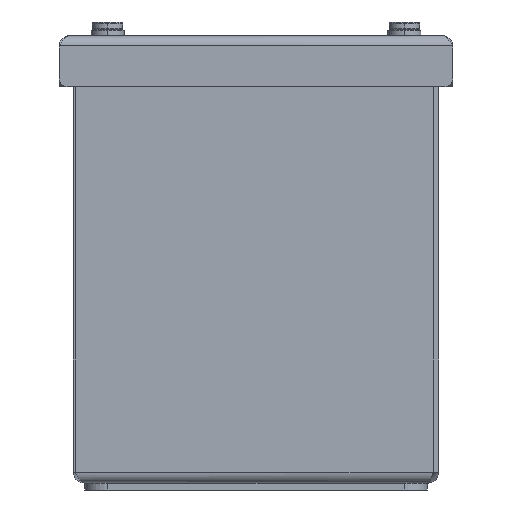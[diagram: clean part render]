
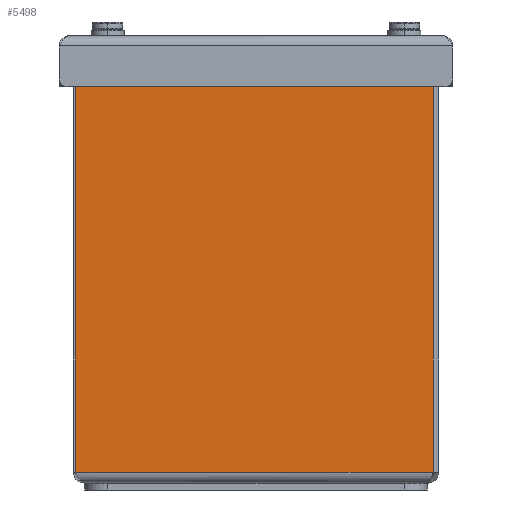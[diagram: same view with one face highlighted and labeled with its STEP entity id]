
A CAD part, left-side view. The second image highlights one B-rep face of the part: STEP entity #5498.
In plain terms, the highlighted planar face has unit normal (-1, 0, 0).
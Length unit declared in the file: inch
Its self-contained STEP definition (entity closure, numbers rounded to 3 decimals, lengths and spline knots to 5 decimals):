
#264=DIRECTION('',(0.,-1.,0.));
#265=VECTOR('',#264,3.918);
#266=CARTESIAN_POINT('',(0.,3.978,0.12));
#267=LINE('',#266,#265);
#1701=DIRECTION('',(0.,-1.,0.));
#1702=VECTOR('',#1701,3.22175);
#1703=CARTESIAN_POINT('',(0.,3.978,4.638));
#1704=LINE('',#1703,#1702);
#1791=DIRECTION('',(0.,0.,1.));
#1792=VECTOR('',#1791,0.052);
#1793=CARTESIAN_POINT('',(0.,0.75625,4.638));
#1794=LINE('',#1793,#1792);
#1798=DIRECTION('',(0.,1.,0.));
#1799=VECTOR('',#1798,0.64425);
#1800=CARTESIAN_POINT('',(0.,0.112,4.69));
#1801=LINE('',#1800,#1799);
#1805=CARTESIAN_POINT('',(0.,0.112,4.638));
#1806=DIRECTION('',(-1.,0.,0.));
#1807=DIRECTION('',(0.,-1.,0.));
#1808=AXIS2_PLACEMENT_3D('',#1805,#1806,#1807);
#1813=DIRECTION('',(0.,0.,1.));
#1814=VECTOR('',#1813,4.518);
#1815=CARTESIAN_POINT('',(0.,3.978,0.12));
#1816=LINE('',#1815,#1814);
#1862=DIRECTION('',(0.,0.,1.));
#1863=VECTOR('',#1862,4.518);
#1864=CARTESIAN_POINT('',(0.,0.06,0.12));
#1865=LINE('',#1864,#1863);
#3563=CARTESIAN_POINT('',(0.,0.75625,4.638));
#3564=CARTESIAN_POINT('',(0.,0.75625,4.69));
#3565=VERTEX_POINT('',#3563);
#3566=VERTEX_POINT('',#3564);
#3611=CARTESIAN_POINT('',(0.,0.06,4.638));
#3612=CARTESIAN_POINT('',(0.,0.112,4.69));
#3613=VERTEX_POINT('',#3611);
#3614=VERTEX_POINT('',#3612);
#3619=CARTESIAN_POINT('',(0.,0.06,0.12));
#3620=VERTEX_POINT('',#3619);
#3623=CARTESIAN_POINT('',(0.,3.978,0.12));
#3624=CARTESIAN_POINT('',(0.,3.978,4.638));
#3625=VERTEX_POINT('',#3623);
#3626=VERTEX_POINT('',#3624);
#5479=CARTESIAN_POINT('',(0.,4.,0.));
#5480=DIRECTION('',(-1.,0.,0.));
#5481=DIRECTION('',(0.,-1.,0.));
#5482=AXIS2_PLACEMENT_3D('',#5479,#5480,#5481);
#5483=PLANE('',#5482);
#5484=ORIENTED_EDGE('',*,*,#5468,.T.);
#5486=ORIENTED_EDGE('',*,*,#5485,.T.);
#5488=ORIENTED_EDGE('',*,*,#5487,.F.);
#5490=ORIENTED_EDGE('',*,*,#5489,.F.);
#5492=ORIENTED_EDGE('',*,*,#5491,.F.);
#5493=ORIENTED_EDGE('',*,*,#4168,.F.);
#5495=ORIENTED_EDGE('',*,*,#5494,.T.);
#5496=EDGE_LOOP('',(#5484,#5486,#5488,#5490,#5492,#5493,#5495));
#5497=FACE_OUTER_BOUND('',#5496,.F.);
#1809=CIRCLE('',#1808,0.052);
#4168=EDGE_CURVE('',#3625,#3620,#267,.T.);
#5468=EDGE_CURVE('',#3626,#3565,#1704,.T.);
#5485=EDGE_CURVE('',#3565,#3566,#1794,.T.);
#5487=EDGE_CURVE('',#3614,#3566,#1801,.T.);
#5489=EDGE_CURVE('',#3613,#3614,#1809,.T.);
#5491=EDGE_CURVE('',#3620,#3613,#1865,.T.);
#5494=EDGE_CURVE('',#3625,#3626,#1816,.T.);
#5498=ADVANCED_FACE('',(#5497),#5483,.T.);
